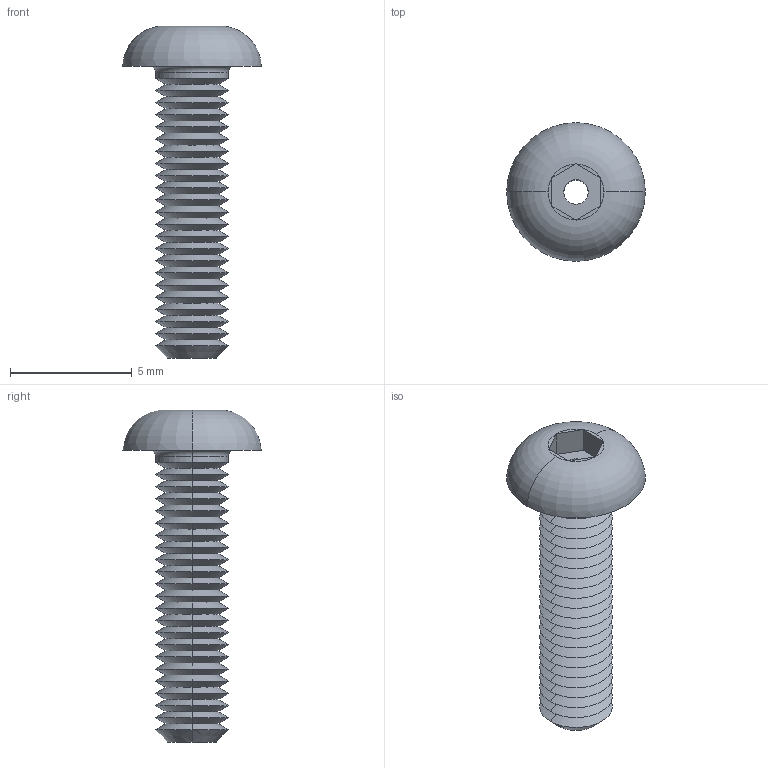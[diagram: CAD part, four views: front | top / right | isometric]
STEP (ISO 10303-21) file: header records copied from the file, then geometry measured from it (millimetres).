
FILE_DESCRIPTION (( 'STEP AP203' ), '1' );
FILE_NAME ('P0094.030-012-A2.step', '2019-07-12T16:51:41', ( '' ), ( '' ), 'SwSTEP 2.0', 'SolidWorks 2017', '' );
FILE_SCHEMA (( 'CONFIG_CONTROL_DESIGN' ));
Length unit declared in the file: millimetre
Products named in the file (1): P0094.030-012-A2
Bounding box: 5.7 x 5.7 x 13.65 mm (x, y, z)
Volume: 82.6 mm3; surface area: 294.3 mm2
Topology: 1 solids, 1 shells, 113 faces, 238 edges, 128 vertices
Faces by surface type: cone 90, plane 15, cylinder 4, torus 4
Entity records: 3039 total; most frequent: DIRECTION 574, CARTESIAN_POINT 500, ORIENTED_EDGE 476, EDGE_CURVE 238, AXIS2_PLACEMENT_3D 228, VERTEX_POINT 128, VECTOR 118, LINE 118
